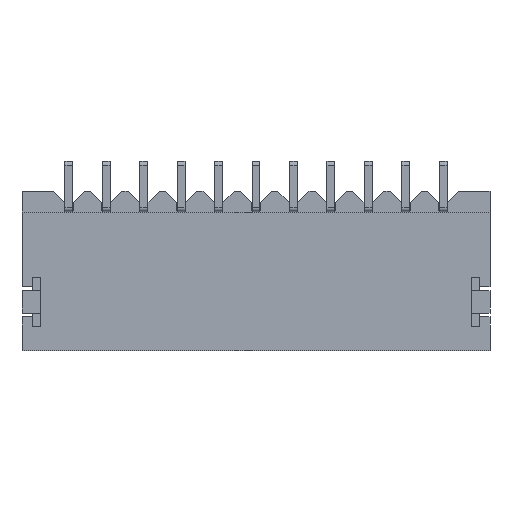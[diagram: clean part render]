
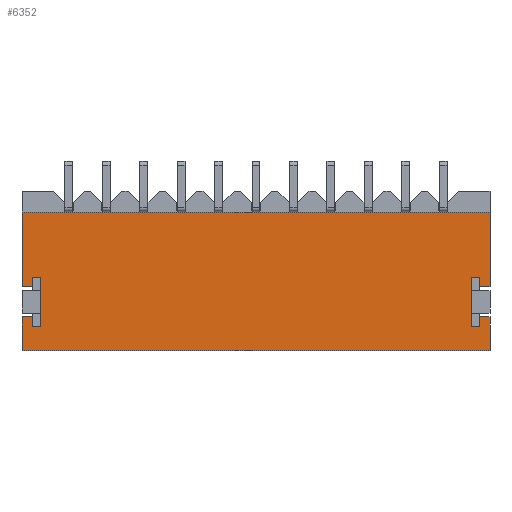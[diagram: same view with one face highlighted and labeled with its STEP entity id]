
A CAD part, front view. The second image highlights one B-rep face of the part: STEP entity #6352.
In plain terms, the highlighted planar face has unit normal (0, -1, 0).
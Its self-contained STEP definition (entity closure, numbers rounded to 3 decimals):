
#1916=CARTESIAN_POINT('Line Origine',(0.,0.,0.)) ;
#1920=CARTESIAN_POINT('Vertex',(-6.25,0.,0.)) ;
#1922=CARTESIAN_POINT('Vertex',(6.25,0.,0.)) ;
#2214=CARTESIAN_POINT('Vertex',(-6.25,0.,0.9)) ;
#2217=CARTESIAN_POINT('Line Origine',(-6.25,0.,0.45)) ;
#2290=CARTESIAN_POINT('Vertex',(-6.25,0.,1.7)) ;
#2293=CARTESIAN_POINT('Line Origine',(-6.25,0.,2.7)) ;
#2297=CARTESIAN_POINT('Vertex',(-6.25,0.,3.7)) ;
#4456=CARTESIAN_POINT('Vertex',(5.75,0.,1.95)) ;
#4459=CARTESIAN_POINT('Line Origine',(5.75,0.,1.3)) ;
#4463=CARTESIAN_POINT('Vertex',(5.75,0.,0.65)) ;
#4496=CARTESIAN_POINT('Vertex',(-5.75,0.,0.65)) ;
#4499=CARTESIAN_POINT('Line Origine',(-5.75,0.,1.3)) ;
#4503=CARTESIAN_POINT('Vertex',(-5.75,0.,1.95)) ;
#5806=CARTESIAN_POINT('Vertex',(-5.97,0.,0.9)) ;
#5809=CARTESIAN_POINT('Line Origine',(-6.11,0.,0.9)) ;
#5826=CARTESIAN_POINT('Line Origine',(-5.97,0.,0.775)) ;
#5830=CARTESIAN_POINT('Vertex',(-5.97,0.,0.65)) ;
#5855=CARTESIAN_POINT('Line Origine',(-5.86,0.,0.65)) ;
#5895=CARTESIAN_POINT('Vertex',(-5.97,0.,1.95)) ;
#5898=CARTESIAN_POINT('Line Origine',(-5.86,0.,1.95)) ;
#5912=CARTESIAN_POINT('Line Origine',(-5.97,0.,1.825)) ;
#5916=CARTESIAN_POINT('Vertex',(-5.97,0.,1.7)) ;
#5936=CARTESIAN_POINT('Line Origine',(-6.11,0.,1.7)) ;
#5969=CARTESIAN_POINT('Vertex',(6.25,0.,3.7)) ;
#5972=CARTESIAN_POINT('Line Origine',(6.25,0.,2.7)) ;
#5976=CARTESIAN_POINT('Vertex',(6.25,0.,1.7)) ;
#5999=CARTESIAN_POINT('Vertex',(5.97,0.,1.7)) ;
#6002=CARTESIAN_POINT('Line Origine',(6.11,0.,1.7)) ;
#6023=CARTESIAN_POINT('Vertex',(5.97,0.,1.95)) ;
#6026=CARTESIAN_POINT('Line Origine',(5.97,0.,1.825)) ;
#6043=CARTESIAN_POINT('Line Origine',(5.86,0.,1.95)) ;
#6080=CARTESIAN_POINT('Vertex',(5.97,0.,0.65)) ;
#6088=CARTESIAN_POINT('Line Origine',(5.86,0.,0.65)) ;
#6106=CARTESIAN_POINT('Vertex',(5.97,0.,0.9)) ;
#6109=CARTESIAN_POINT('Line Origine',(5.97,0.,0.775)) ;
#6125=CARTESIAN_POINT('Vertex',(6.25,0.,0.9)) ;
#6128=CARTESIAN_POINT('Line Origine',(6.11,0.,0.9)) ;
#6315=CARTESIAN_POINT('Axis2P3D Location',(0.,0.,0.)) ;
#6320=CARTESIAN_POINT('Line Origine',(6.25,0.,0.45)) ;
#6325=CARTESIAN_POINT('Line Origine',(0.,0.,3.7)) ;
#1917=DIRECTION('Vector Direction',(1.,0.,0.)) ;
#2218=DIRECTION('Vector Direction',(0.,0.,1.)) ;
#2294=DIRECTION('Vector Direction',(0.,0.,1.)) ;
#4460=DIRECTION('Vector Direction',(0.,0.,1.)) ;
#4500=DIRECTION('Vector Direction',(0.,0.,1.)) ;
#5810=DIRECTION('Vector Direction',(1.,0.,0.)) ;
#5827=DIRECTION('Vector Direction',(0.,0.,-1.)) ;
#5856=DIRECTION('Vector Direction',(-1.,0.,0.)) ;
#5899=DIRECTION('Vector Direction',(1.,0.,0.)) ;
#5913=DIRECTION('Vector Direction',(0.,0.,-1.)) ;
#5937=DIRECTION('Vector Direction',(1.,0.,0.)) ;
#5973=DIRECTION('Vector Direction',(0.,0.,1.)) ;
#6003=DIRECTION('Vector Direction',(-1.,0.,0.)) ;
#6027=DIRECTION('Vector Direction',(0.,0.,-1.)) ;
#6044=DIRECTION('Vector Direction',(1.,0.,0.)) ;
#6089=DIRECTION('Vector Direction',(-1.,0.,0.)) ;
#6110=DIRECTION('Vector Direction',(0.,0.,-1.)) ;
#6129=DIRECTION('Vector Direction',(-1.,0.,0.)) ;
#6316=DIRECTION('Axis2P3D Direction',(0.,1.,0.)) ;
#6317=DIRECTION('Axis2P3D XDirection',(0.,0.,1.)) ;
#6321=DIRECTION('Vector Direction',(0.,0.,1.)) ;
#6326=DIRECTION('Vector Direction',(1.,0.,0.)) ;
#6318=AXIS2_PLACEMENT_3D('Plane Axis2P3D',#6315,#6316,#6317) ;
#6331=ORIENTED_EDGE('',*,*,#5940,.T.) ;
#6332=ORIENTED_EDGE('',*,*,#5918,.F.) ;
#6333=ORIENTED_EDGE('',*,*,#5902,.T.) ;
#6334=ORIENTED_EDGE('',*,*,#4505,.F.) ;
#6335=ORIENTED_EDGE('',*,*,#5859,.T.) ;
#6336=ORIENTED_EDGE('',*,*,#5832,.F.) ;
#6337=ORIENTED_EDGE('',*,*,#5813,.F.) ;
#6338=ORIENTED_EDGE('',*,*,#2221,.T.) ;
#6339=ORIENTED_EDGE('',*,*,#1924,.T.) ;
#6340=ORIENTED_EDGE('',*,*,#6324,.F.) ;
#6341=ORIENTED_EDGE('',*,*,#6132,.T.) ;
#6342=ORIENTED_EDGE('',*,*,#6113,.T.) ;
#6343=ORIENTED_EDGE('',*,*,#6092,.T.) ;
#6344=ORIENTED_EDGE('',*,*,#4465,.T.) ;
#6345=ORIENTED_EDGE('',*,*,#6047,.T.) ;
#6346=ORIENTED_EDGE('',*,*,#6030,.T.) ;
#6347=ORIENTED_EDGE('',*,*,#6006,.F.) ;
#6348=ORIENTED_EDGE('',*,*,#5978,.F.) ;
#6349=ORIENTED_EDGE('',*,*,#6329,.F.) ;
#6350=ORIENTED_EDGE('',*,*,#2299,.T.) ;
#1918=VECTOR('Line Direction',#1917,1.) ;
#2219=VECTOR('Line Direction',#2218,1.) ;
#2295=VECTOR('Line Direction',#2294,1.) ;
#4461=VECTOR('Line Direction',#4460,1.) ;
#4501=VECTOR('Line Direction',#4500,1.) ;
#5811=VECTOR('Line Direction',#5810,1.) ;
#5828=VECTOR('Line Direction',#5827,1.) ;
#5857=VECTOR('Line Direction',#5856,1.) ;
#5900=VECTOR('Line Direction',#5899,1.) ;
#5914=VECTOR('Line Direction',#5913,1.) ;
#5938=VECTOR('Line Direction',#5937,1.) ;
#5974=VECTOR('Line Direction',#5973,1.) ;
#6004=VECTOR('Line Direction',#6003,1.) ;
#6028=VECTOR('Line Direction',#6027,1.) ;
#6045=VECTOR('Line Direction',#6044,1.) ;
#6090=VECTOR('Line Direction',#6089,1.) ;
#6111=VECTOR('Line Direction',#6110,1.) ;
#6130=VECTOR('Line Direction',#6129,1.) ;
#6322=VECTOR('Line Direction',#6321,1.) ;
#6327=VECTOR('Line Direction',#6326,1.) ;
#6352=ADVANCED_FACE('\X2\96F64EF651E04F554F53\X0\',(#6351),#6319,.F.) ;
#1924=EDGE_CURVE('',#1921,#1923,#1919,.T.) ;
#2221=EDGE_CURVE('',#2215,#1921,#2220,.F.) ;
#2299=EDGE_CURVE('',#2298,#2291,#2296,.F.) ;
#4465=EDGE_CURVE('',#4464,#4457,#4462,.T.) ;
#4505=EDGE_CURVE('',#4497,#4504,#4502,.T.) ;
#5813=EDGE_CURVE('',#2215,#5807,#5812,.T.) ;
#5832=EDGE_CURVE('',#5807,#5831,#5829,.T.) ;
#5859=EDGE_CURVE('',#4497,#5831,#5858,.T.) ;
#5902=EDGE_CURVE('',#5896,#4504,#5901,.T.) ;
#5918=EDGE_CURVE('',#5896,#5917,#5915,.T.) ;
#5940=EDGE_CURVE('',#2291,#5917,#5939,.T.) ;
#5978=EDGE_CURVE('',#5970,#5977,#5975,.F.) ;
#6006=EDGE_CURVE('',#5977,#6000,#6005,.T.) ;
#6030=EDGE_CURVE('',#6024,#6000,#6029,.T.) ;
#6047=EDGE_CURVE('',#4457,#6024,#6046,.T.) ;
#6092=EDGE_CURVE('',#6081,#4464,#6091,.T.) ;
#6113=EDGE_CURVE('',#6107,#6081,#6112,.T.) ;
#6132=EDGE_CURVE('',#6126,#6107,#6131,.T.) ;
#6324=EDGE_CURVE('',#6126,#1923,#6323,.F.) ;
#6329=EDGE_CURVE('',#2298,#5970,#6328,.T.) ;
#6330=EDGE_LOOP('',(#6331,#6332,#6333,#6334,#6335,#6336,#6337,#6338,#6339,#6340,#6341,#6342,#6343,#6344,#6345,#6346,#6347,#6348,#6349,#6350)) ;
#6351=FACE_OUTER_BOUND('',#6330,.T.) ;
#1919=LINE('Line',#1916,#1918) ;
#2220=LINE('Line',#2217,#2219) ;
#2296=LINE('Line',#2293,#2295) ;
#4462=LINE('Line',#4459,#4461) ;
#4502=LINE('Line',#4499,#4501) ;
#5812=LINE('Line',#5809,#5811) ;
#5829=LINE('Line',#5826,#5828) ;
#5858=LINE('Line',#5855,#5857) ;
#5901=LINE('Line',#5898,#5900) ;
#5915=LINE('Line',#5912,#5914) ;
#5939=LINE('Line',#5936,#5938) ;
#5975=LINE('Line',#5972,#5974) ;
#6005=LINE('Line',#6002,#6004) ;
#6029=LINE('Line',#6026,#6028) ;
#6046=LINE('Line',#6043,#6045) ;
#6091=LINE('Line',#6088,#6090) ;
#6112=LINE('Line',#6109,#6111) ;
#6131=LINE('Line',#6128,#6130) ;
#6323=LINE('Line',#6320,#6322) ;
#6328=LINE('Line',#6325,#6327) ;
#6319=PLANE('Plane',#6318) ;
#1921=VERTEX_POINT('',#1920) ;
#1923=VERTEX_POINT('',#1922) ;
#2215=VERTEX_POINT('',#2214) ;
#2291=VERTEX_POINT('',#2290) ;
#2298=VERTEX_POINT('',#2297) ;
#4457=VERTEX_POINT('',#4456) ;
#4464=VERTEX_POINT('',#4463) ;
#4497=VERTEX_POINT('',#4496) ;
#4504=VERTEX_POINT('',#4503) ;
#5807=VERTEX_POINT('',#5806) ;
#5831=VERTEX_POINT('',#5830) ;
#5896=VERTEX_POINT('',#5895) ;
#5917=VERTEX_POINT('',#5916) ;
#5970=VERTEX_POINT('',#5969) ;
#5977=VERTEX_POINT('',#5976) ;
#6000=VERTEX_POINT('',#5999) ;
#6024=VERTEX_POINT('',#6023) ;
#6081=VERTEX_POINT('',#6080) ;
#6107=VERTEX_POINT('',#6106) ;
#6126=VERTEX_POINT('',#6125) ;
